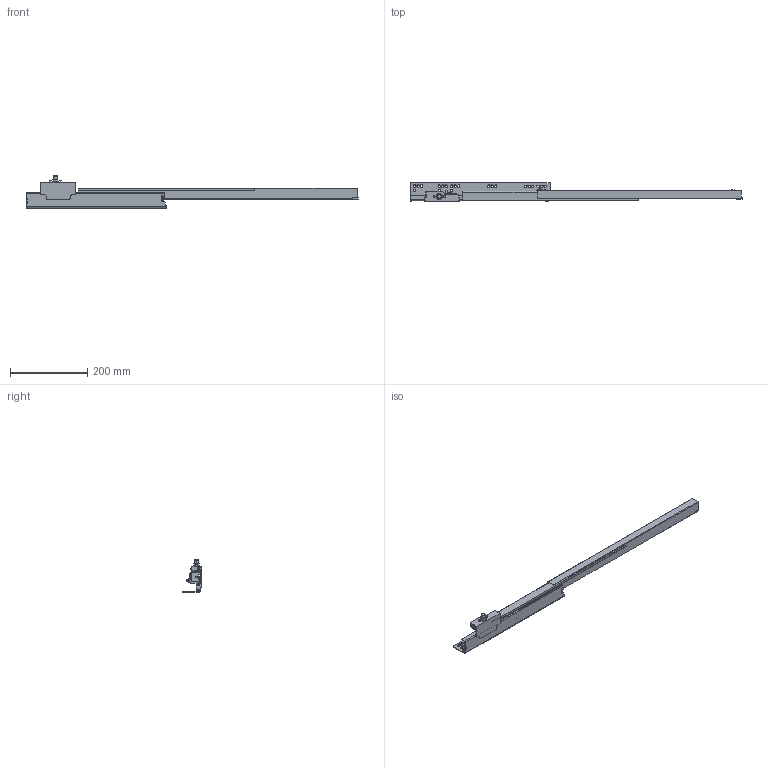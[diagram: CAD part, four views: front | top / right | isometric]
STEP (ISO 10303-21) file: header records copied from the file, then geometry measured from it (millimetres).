
FILE_DESCRIPTION (( 'STEP AP203' ), '1' );
FILE_NAME ('HT405504H-R(´ò¿ª).STEP', '2022-05-24T07:01:40', ( 'Users' ), ( 'Microsoft' ), 'SwSTEP 2.0', 'SolidWorks 2018', '' );
FILE_SCHEMA (( 'CONFIG_CONTROL_DESIGN' ));
Length unit declared in the file: millimetre
Products named in the file (1): HT405504H-R(湖羲)
Bounding box: 860.8 x 47.5 x 83.3 mm (x, y, z)
Volume: 553029.2 mm3; surface area: 155509.6 mm2
Topology: 2 solids, 2 shells, 470 faces, 1204 edges, 748 vertices
Faces by surface type: cylinder 184, plane 150, torus 62, cone 48, bspline 22, sphere 4
Entity records: 15722 total; most frequent: CARTESIAN_POINT 3980, DIRECTION 2538, ORIENTED_EDGE 2400, EDGE_CURVE 1200, AXIS2_PLACEMENT_3D 954, VERTEX_POINT 748, LINE 630, VECTOR 630
